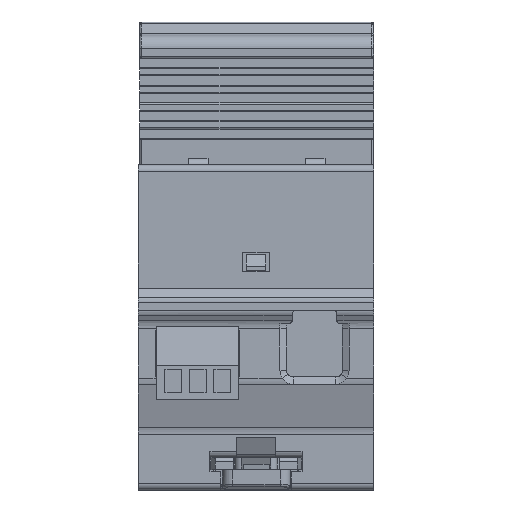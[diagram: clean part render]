
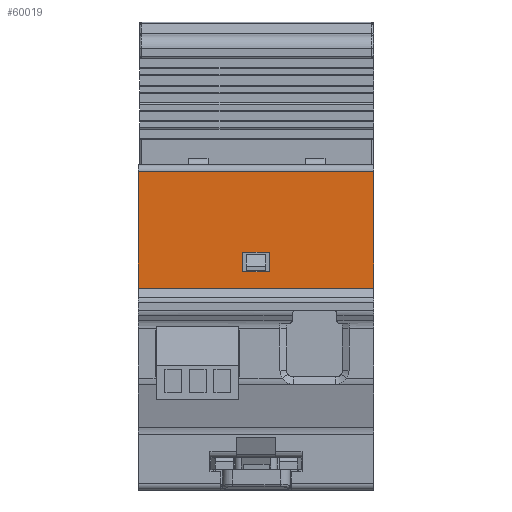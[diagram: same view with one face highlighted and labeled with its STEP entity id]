
A CAD part, left-side view. The second image highlights one B-rep face of the part: STEP entity #60019.
In plain terms, the highlighted planar face has unit normal (-1, 0, 0).
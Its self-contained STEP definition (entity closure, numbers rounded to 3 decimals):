
#771 = VECTOR ( 'NONE', #58517, 1000. ) ;
#1110 = LINE ( 'NONE', #9722, #64437 ) ;
#3124 = DIRECTION ( 'NONE',  ( 0., 1., 0. ) ) ;
#6708 = LINE ( 'NONE', #17407, #48959 ) ;
#7009 = VERTEX_POINT ( 'NONE', #20547 ) ;
#7385 = AXIS2_PLACEMENT_3D ( 'NONE', #53052, #34586, #64882 ) ;
#7857 = VECTOR ( 'NONE', #30108, 1000. ) ;
#8388 = VECTOR ( 'NONE', #3124, 1000. ) ;
#8490 = CARTESIAN_POINT ( 'NONE',  ( -41.892, -0.786, 123.501 ) ) ;
#8967 = CARTESIAN_POINT ( 'NONE',  ( -41.892, 17.114, 123.501 ) ) ;
#9722 = CARTESIAN_POINT ( 'NONE',  ( -41.892, -2.786, 75.001 ) ) ;
#13749 = ORIENTED_EDGE ( 'NONE', *, *, #61922, .T. ) ;
#16438 = CARTESIAN_POINT ( 'NONE',  ( -41.892, -0.786, 108.201 ) ) ;
#17407 = CARTESIAN_POINT ( 'NONE',  ( -41.892, 17.014, 105.701 ) ) ;
#19619 = ORIENTED_EDGE ( 'NONE', *, *, #65403, .T. ) ;
#20547 = CARTESIAN_POINT ( 'NONE',  ( -41.892, 1.214, 111.201 ) ) ;
#22366 = CARTESIAN_POINT ( 'NONE',  ( -41.892, 17.114, 75.001 ) ) ;
#23098 = DIRECTION ( 'NONE',  ( 0., -1., 0. ) ) ;
#24352 = ORIENTED_EDGE ( 'NONE', *, *, #26335, .T. ) ;
#25644 = DIRECTION ( 'NONE',  ( 0., -1., 0. ) ) ;
#26162 = VERTEX_POINT ( 'NONE', #42614 ) ;
#26335 = EDGE_CURVE ( 'NONE', #73140, #26162, #74528, .T. ) ;
#29331 = VECTOR ( 'NONE', #25644, 1000. ) ;
#29399 = CARTESIAN_POINT ( 'NONE',  ( -41.892, -2.786, 111.201 ) ) ;
#30108 = DIRECTION ( 'NONE',  ( 0., 0., -1. ) ) ;
#30461 = FACE_BOUND ( 'NONE', #42965, .T. ) ;
#31521 = LINE ( 'NONE', #22366, #771 ) ;
#33362 = LINE ( 'NONE', #8490, #8388 ) ;
#34154 = EDGE_CURVE ( 'NONE', #54391, #60543, #6708, .T. ) ;
#34586 = DIRECTION ( 'NONE',  ( -1., 0., 0. ) ) ;
#36708 = CARTESIAN_POINT ( 'NONE',  ( -41.892, -18.686, 75.001 ) ) ;
#38681 = ORIENTED_EDGE ( 'NONE', *, *, #39581, .T. ) ;
#39581 = EDGE_CURVE ( 'NONE', #26162, #7009, #57871, .T. ) ;
#42614 = CARTESIAN_POINT ( 'NONE',  ( -41.892, 1.214, 108.201 ) ) ;
#42965 = EDGE_LOOP ( 'NONE', ( #24352, #38681, #44882, #19619 ) ) ;
#44882 = ORIENTED_EDGE ( 'NONE', *, *, #47424, .T. ) ;
#45122 = VERTEX_POINT ( 'NONE', #29399 ) ;
#45624 = DIRECTION ( 'NONE',  ( 0., 0., -1. ) ) ;
#46467 = DIRECTION ( 'NONE',  ( 0., 0., 1. ) ) ;
#46576 = PLANE ( 'NONE',  #7385 ) ;
#46886 = CARTESIAN_POINT ( 'NONE',  ( -41.892, -2.786, 108.201 ) ) ;
#47424 = EDGE_CURVE ( 'NONE', #7009, #45122, #63810, .T. ) ;
#47794 = EDGE_CURVE ( 'NONE', #58343, #54391, #31521, .T. ) ;
#48644 = VERTEX_POINT ( 'NONE', #76554 ) ;
#48959 = VECTOR ( 'NONE', #23098, 1000. ) ;
#51675 = EDGE_CURVE ( 'NONE', #48644, #60543, #76946, .T. ) ;
#53052 = CARTESIAN_POINT ( 'NONE',  ( -41.892, -0.786, 75.001 ) ) ;
#54050 = VECTOR ( 'NONE', #46467, 1000. ) ;
#54391 = VERTEX_POINT ( 'NONE', #58012 ) ;
#56757 = CARTESIAN_POINT ( 'NONE',  ( -41.892, -18.686, 105.701 ) ) ;
#57871 = LINE ( 'NONE', #66081, #54050 ) ;
#58012 = CARTESIAN_POINT ( 'NONE',  ( -41.892, 17.114, 105.701 ) ) ;
#58213 = VECTOR ( 'NONE', #65545, 1000. ) ;
#58343 = VERTEX_POINT ( 'NONE', #8967 ) ;
#58517 = DIRECTION ( 'NONE',  ( 0., 0., -1. ) ) ;
#60019 = ADVANCED_FACE ( 'NONE', ( #30461, #63031 ), #46576, .T. ) ;
#60543 = VERTEX_POINT ( 'NONE', #56757 ) ;
#61886 = ORIENTED_EDGE ( 'NONE', *, *, #47794, .T. ) ;
#61922 = EDGE_CURVE ( 'NONE', #48644, #58343, #33362, .T. ) ;
#62849 = CARTESIAN_POINT ( 'NONE',  ( -41.892, -0.786, 111.201 ) ) ;
#63031 = FACE_OUTER_BOUND ( 'NONE', #63685, .T. ) ;
#63685 = EDGE_LOOP ( 'NONE', ( #13749, #61886, #79111, #69935 ) ) ;
#63810 = LINE ( 'NONE', #62849, #29331 ) ;
#64437 = VECTOR ( 'NONE', #45624, 1000. ) ;
#64882 = DIRECTION ( 'NONE',  ( 0., 0., 1. ) ) ;
#65403 = EDGE_CURVE ( 'NONE', #45122, #73140, #1110, .T. ) ;
#65545 = DIRECTION ( 'NONE',  ( 0., 1., 0. ) ) ;
#66081 = CARTESIAN_POINT ( 'NONE',  ( -41.892, 1.214, 75.001 ) ) ;
#69935 = ORIENTED_EDGE ( 'NONE', *, *, #51675, .F. ) ;
#73140 = VERTEX_POINT ( 'NONE', #46886 ) ;
#74528 = LINE ( 'NONE', #16438, #58213 ) ;
#76554 = CARTESIAN_POINT ( 'NONE',  ( -41.892, -18.686, 123.501 ) ) ;
#76946 = LINE ( 'NONE', #36708, #7857 ) ;
#79111 = ORIENTED_EDGE ( 'NONE', *, *, #34154, .T. ) ;
